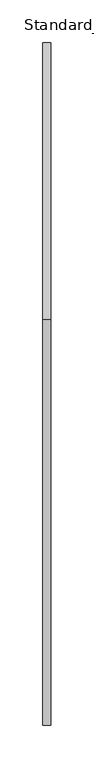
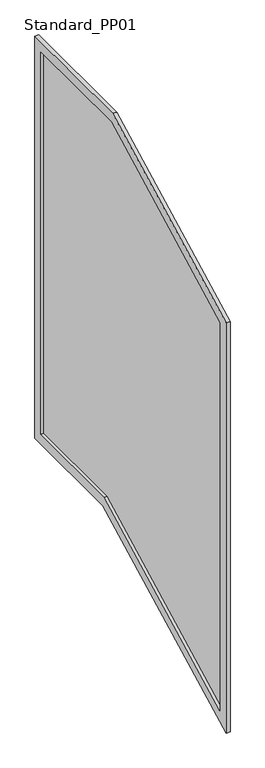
"""IFC4 building model written with IfcOpenShell, lengths in millimetres: railing geometry, Baluster-Landing-Panel-VIVA-STRUC-Lower : Standard_PP01."""

from ifc_helpers import new_model, si_unit, frame, origin, place, context, project, spatial, polyline, outline, extrude, source, transform, mapped, element, save


def standard_pp01_b38831fd(model_context):
    return source(origin(), model_context, "Body", "SweptSolid", [
        extrude(outline(polyline([(508.8760777, -68.9880009), (25.4, -320.6697167), (25.4, 668.9762032), (480.9970197, 906.145), (773.9140023, 906.145), (773.9140023, -68.9880009), (508.8760777, -68.9880009)])), frame((14.2584857, 0.0, 0.0), z_axis=(1.0, 0.0, 0.0), x_axis=(0.0, 1.0, 0.0)), (0.0, 0.0, 1.0), 2.9972),
        extrude(outline(polyline([(0.0, -362.5276212), (0.0, 684.3893016), (474.7816793, 931.545), (799.3140023, 931.545), (799.3140023, -94.3880009), (515.0914182, -94.3880009), (0.0, -362.5276212)]), holes=[polyline([(773.9140023, 906.145), (480.9970197, 906.145), (25.4, 668.9762032), (25.4, -320.6697167), (508.8760777, -68.9880009), (773.9140023, -68.9880009), (773.9140023, 906.145)])]), frame((7.6036857, 0.0, 0.0), z_axis=(1.0, 0.0, 0.0), x_axis=(0.0, 1.0, 0.0)), (0.0, 0.0, 1.0), 9.652),
    ])


if __name__ == "__main__":
    model = new_model("IFC4")
    model_context = context("Model", 3, world=origin())
    ifc_project = project(units=[si_unit("LENGTHUNIT", "METRE", prefix="MILLI")], contexts=[model_context])
    site = spatial("IfcSite", under=ifc_project)
    building = spatial("IfcBuilding", under=site)
    placement = place(None, origin())
    standard_pp01_shape = standard_pp01_b38831fd(model_context)
    element("IfcRailing", 1, ObjectType="Baluster-Landing-Panel-VIVA-STRUC-Lower : Standard_PP01", at=placement, inside=building, context=model_context, shape_type="MappedRepresentation", body=[
        mapped(standard_pp01_shape, transform((0.0, 0.0, 0.0), x_axis=(1.0, 0.0, 0.0), y_axis=(0.0, 1.0, 0.0), z_axis=(0.0, 0.0, 1.0))),
    ])
    save(model, "model.ifc")
